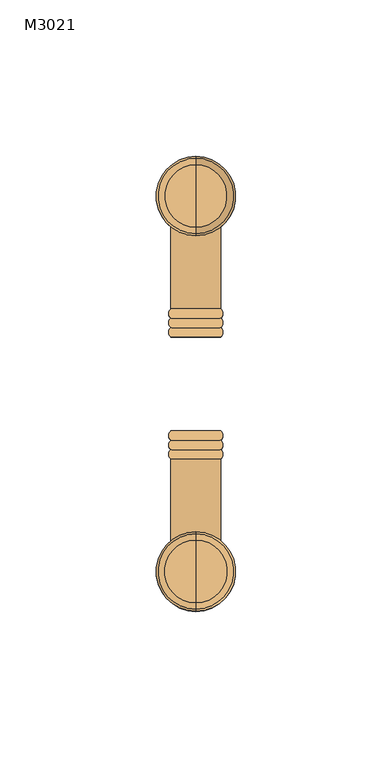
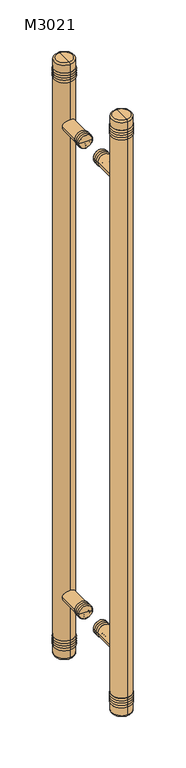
"""IFC4 building model written with IfcOpenShell, lengths in millimetres: door geometry, 双面嵌板连窗玻璃门 3 : M3021."""

from ifc_helpers import new_model, si_unit, point, frame, origin, place, context, project, spatial, circle_curve, ellipse_curve, trimmed, source, transform, mapped, element, save
from ifc_brep_helpers import plane_surface, cylinder_surface, revolved_surface, advanced_brep


def m3021_ca4d32ab(model_context):
    return source(origin(), model_context, "Body", "AdvancedBrep", [
        advanced_brep(
        [(-60.0, 15.0, 1300.0), (-68.0, 15.0, 1300.0), (-52.0, 15.0, 1300.0), (-52.0, 24.0, 1300.0), (-68.0, 24.0, 1300.0), (-60.0, 24.0, 1300.0), (-52.0, 21.0, 1300.0), (-68.0, 21.0, 1300.0), (-52.0, 18.0, 1300.0), (-68.0, 18.0, 1300.0)],
        [
            (0, 1),
            (1, 2, circle_curve(frame((-60.0, 15.0, 1300.0), z_axis=(0.0, -1.0, 0.0), x_axis=(-1.0, 0.0, 0.0)), 8.0)),
            (2, 0),
            (2, 1, circle_curve(frame((-60.0, 15.0, 1300.0), z_axis=(0.0, -1.0, 0.0), x_axis=(-1.0, 0.0, 0.0)), 8.0)),
            (3, 4, circle_curve(frame((-60.0, 24.0, 1300.0), z_axis=(0.0, 1.0, 0.0), x_axis=(-1.0, 0.0, 0.0)), 8.0)),
            (4, 5),
            (5, 3),
            (4, 3, circle_curve(frame((-60.0, 24.0, 1300.0), z_axis=(0.0, 1.0, 0.0), x_axis=(-1.0, 0.0, 0.0)), 8.0)),
            (6, 7, circle_curve(frame((-60.0, 21.0, 1300.0), z_axis=(0.0, 1.0, 0.0), x_axis=(-1.0, 0.0, 0.0)), 8.0)),
            (7, 4, circle_curve(frame((-66.6771243, 22.5, 1300.0), z_axis=(0.0, 0.0, -1.0), x_axis=(-1.0, 0.0, 0.0)), 2.0)),
            (3, 6, circle_curve(frame((-53.3228757, 22.5, 1300.0), z_axis=(0.0, 0.0, -1.0), x_axis=(1.0, 0.0, 0.0)), 2.0)),
            (7, 6, circle_curve(frame((-60.0, 21.0, 1300.0), z_axis=(0.0, 1.0, 0.0), x_axis=(-1.0, 0.0, 0.0)), 8.0)),
            (8, 9, circle_curve(frame((-60.0, 18.0, 1300.0), z_axis=(0.0, 1.0, 0.0), x_axis=(-1.0, 0.0, 0.0)), 8.0)),
            (9, 7, circle_curve(frame((-66.6771243, 19.5, 1300.0), z_axis=(0.0, 0.0, -1.0), x_axis=(-1.0, 0.0, 0.0)), 2.0)),
            (6, 8, circle_curve(frame((-53.3228757, 19.5, 1300.0), z_axis=(0.0, 0.0, -1.0), x_axis=(1.0, 0.0, 0.0)), 2.0)),
            (9, 8, circle_curve(frame((-60.0, 18.0, 1300.0), z_axis=(0.0, 1.0, 0.0), x_axis=(-1.0, 0.0, 0.0)), 8.0)),
            (1, 9, circle_curve(frame((-66.6771243, 16.5, 1300.0), z_axis=(0.0, 0.0, -1.0), x_axis=(-1.0, 0.0, 0.0)), 2.0)),
            (8, 2, circle_curve(frame((-53.3228757, 16.5, 1300.0), z_axis=(0.0, 0.0, -1.0), x_axis=(1.0, 0.0, 0.0)), 2.0)),
        ],
        [
            plane_surface(frame((-60.0, 15.0, 1300.0), z_axis=(0.0, -1.0, 0.0), x_axis=(-1.0, 0.0, 0.0))),
            plane_surface(frame((-60.0, 24.0, 1300.0), z_axis=(0.0, 1.0, 0.0), x_axis=(-1.0, 0.0, 0.0))),
            revolved_surface(trimmed(ellipse_curve(frame((-66.6771243, 22.5, 1300.0), z_axis=(0.0, 0.0, 1.0), x_axis=(-1.0, 0.0, 0.0)), 2.0, 2.0), [point((-68.0, 24.0, 1300.0))], [point((-68.0, 21.0, 1300.0))], True, "CARTESIAN"), (-60.0, -105.0, 1300.0), (0.0, -1.0, 0.0)),
            revolved_surface(trimmed(ellipse_curve(frame((-66.6771243, 19.5, 1300.0), z_axis=(0.0, 0.0, 1.0), x_axis=(-1.0, 0.0, 0.0)), 2.0, 2.0), [point((-68.0, 21.0, 1300.0))], [point((-68.0, 18.0, 1300.0))], True, "CARTESIAN"), (-60.0, -105.0, 1300.0), (0.0, -1.0, 0.0)),
            revolved_surface(trimmed(ellipse_curve(frame((-66.6771243, 16.5, 1300.0), z_axis=(0.0, 0.0, 1.0), x_axis=(-1.0, 0.0, 0.0)), 2.0, 2.0), [point((-68.0, 18.0, 1300.0))], [point((-68.0, 15.0, 1300.0))], True, "CARTESIAN"), (-60.0, -105.0, 1300.0), (0.0, -1.0, 0.0)),
        ],
        [
            (0, [[1, 2, 3]]),
            (0, [[-3, 4, -1]]),
            (1, [[5, 6, 7]]),
            (1, [[8, -7, -6]]),
            (2, [[9, 10, -5, 11]]),
            (2, [[12, -11, -8, -10]]),
            (3, [[13, 14, -9, 15]]),
            (3, [[16, -15, -12, -14]]),
            (4, [[-2, 17, -13, 18]]),
            (4, [[-4, -18, -16, -17]]),
        ],
    ),
        advanced_brep(
        [(-52.0, -18.0, 1300.0), (-68.0, -18.0, 1300.0), (-68.0, -15.0, 1300.0), (-52.0, -15.0, 1300.0), (-52.0, -21.0, 1300.0), (-68.0, -21.0, 1300.0), (-52.0, -24.0, 1300.0), (-68.0, -24.0, 1300.0), (-60.0, -24.0, 1300.0), (-60.0, -15.0, 1300.0)],
        [
            (0, 1, circle_curve(frame((-60.0, -18.0, 1300.0), z_axis=(0.0, 1.0, 0.0), x_axis=(-1.0, 0.0, 0.0)), 8.0)),
            (1, 2, circle_curve(frame((-66.6771243, -16.5, 1300.0), z_axis=(0.0, 0.0, -1.0), x_axis=(-1.0, 0.0, 0.0)), 2.0)),
            (2, 3, circle_curve(frame((-60.0, -15.0, 1300.0), z_axis=(0.0, -1.0, 0.0), x_axis=(-1.0, 0.0, 0.0)), 8.0)),
            (3, 0, circle_curve(frame((-53.3228757, -16.5, 1300.0), z_axis=(0.0, 0.0, -1.0), x_axis=(1.0, 0.0, 0.0)), 2.0)),
            (1, 0, circle_curve(frame((-60.0, -18.0, 1300.0), z_axis=(0.0, 1.0, 0.0), x_axis=(-1.0, 0.0, 0.0)), 8.0)),
            (3, 2, circle_curve(frame((-60.0, -15.0, 1300.0), z_axis=(0.0, -1.0, 0.0), x_axis=(-1.0, 0.0, 0.0)), 8.0)),
            (4, 5, circle_curve(frame((-60.0, -21.0, 1300.0), z_axis=(0.0, 1.0, 0.0), x_axis=(-1.0, 0.0, 0.0)), 8.0)),
            (5, 1, circle_curve(frame((-66.6771243, -19.5, 1300.0), z_axis=(0.0, 0.0, -1.0), x_axis=(-1.0, 0.0, 0.0)), 2.0)),
            (0, 4, circle_curve(frame((-53.3228757, -19.5, 1300.0), z_axis=(0.0, 0.0, -1.0), x_axis=(1.0, 0.0, 0.0)), 2.0)),
            (5, 4, circle_curve(frame((-60.0, -21.0, 1300.0), z_axis=(0.0, 1.0, 0.0), x_axis=(-1.0, 0.0, 0.0)), 8.0)),
            (6, 7, circle_curve(frame((-60.0, -24.0, 1300.0), z_axis=(0.0, 1.0, 0.0), x_axis=(-1.0, 0.0, 0.0)), 8.0)),
            (7, 5, circle_curve(frame((-66.6771243, -22.5, 1300.0), z_axis=(0.0, 0.0, -1.0), x_axis=(-1.0, 0.0, 0.0)), 2.0)),
            (4, 6, circle_curve(frame((-53.3228757, -22.5, 1300.0), z_axis=(0.0, 0.0, -1.0), x_axis=(1.0, 0.0, 0.0)), 2.0)),
            (7, 6, circle_curve(frame((-60.0, -24.0, 1300.0), z_axis=(0.0, 1.0, 0.0), x_axis=(-1.0, 0.0, 0.0)), 8.0)),
            (8, 7),
            (6, 8),
            (2, 9),
            (9, 3),
        ],
        [
            revolved_surface(trimmed(ellipse_curve(frame((-66.6771243, -16.5, 1300.0), z_axis=(0.0, 0.0, 1.0), x_axis=(-1.0, 0.0, 0.0)), 2.0, 2.0), [point((-68.0, -15.0, 1300.0))], [point((-68.0, -18.0, 1300.0))], True, "CARTESIAN"), (-60.0, -105.0, 1300.0), (0.0, -1.0, 0.0)),
            revolved_surface(trimmed(ellipse_curve(frame((-66.6771243, -19.5, 1300.0), z_axis=(0.0, 0.0, 1.0), x_axis=(-1.0, 0.0, 0.0)), 2.0, 2.0), [point((-68.0, -18.0, 1300.0))], [point((-68.0, -21.0, 1300.0))], True, "CARTESIAN"), (-60.0, -105.0, 1300.0), (0.0, -1.0, 0.0)),
            revolved_surface(trimmed(ellipse_curve(frame((-66.6771243, -22.5, 1300.0), z_axis=(0.0, 0.0, 1.0), x_axis=(-1.0, 0.0, 0.0)), 2.0, 2.0), [point((-68.0, -21.0, 1300.0))], [point((-68.0, -24.0, 1300.0))], True, "CARTESIAN"), (-60.0, -105.0, 1300.0), (0.0, -1.0, 0.0)),
            plane_surface(frame((-60.0, -24.0, 1300.0), z_axis=(0.0, -1.0, 0.0), x_axis=(-1.0, 0.0, 0.0))),
            plane_surface(frame((-60.0, -15.0, 1300.0), z_axis=(0.0, 1.0, 0.0), x_axis=(-1.0, 0.0, 0.0))),
        ],
        [
            (0, [[1, 2, 3, 4]]),
            (0, [[5, -4, 6, -2]]),
            (1, [[7, 8, -1, 9]]),
            (1, [[10, -9, -5, -8]]),
            (2, [[11, 12, -7, 13]]),
            (2, [[14, -13, -10, -12]]),
            (3, [[15, -11, 16]]),
            (3, [[-16, -14, -15]]),
            (4, [[-3, 17, 18]]),
            (4, [[-6, -18, -17]]),
        ],
    ),
        advanced_brep(
        [(-60.0, 15.0, 700.0), (-68.0, 15.0, 700.0), (-52.0, 15.0, 700.0), (-52.0, 24.0, 700.0), (-68.0, 24.0, 700.0), (-60.0, 24.0, 700.0), (-52.0, 21.0, 700.0), (-68.0, 21.0, 700.0), (-52.0, 18.0, 700.0), (-68.0, 18.0, 700.0)],
        [
            (0, 1),
            (1, 2, circle_curve(frame((-60.0, 15.0, 700.0), z_axis=(0.0, -1.0, 0.0), x_axis=(-1.0, 0.0, 0.0)), 8.0)),
            (2, 0),
            (2, 1, circle_curve(frame((-60.0, 15.0, 700.0), z_axis=(0.0, -1.0, 0.0), x_axis=(-1.0, 0.0, 0.0)), 8.0)),
            (3, 4, circle_curve(frame((-60.0, 24.0, 700.0), z_axis=(0.0, 1.0, 0.0), x_axis=(-1.0, 0.0, 0.0)), 8.0)),
            (4, 5),
            (5, 3),
            (4, 3, circle_curve(frame((-60.0, 24.0, 700.0), z_axis=(0.0, 1.0, 0.0), x_axis=(-1.0, 0.0, 0.0)), 8.0)),
            (6, 7, circle_curve(frame((-60.0, 21.0, 700.0), z_axis=(0.0, 1.0, 0.0), x_axis=(-1.0, 0.0, 0.0)), 8.0)),
            (7, 4, circle_curve(frame((-66.6771243, 22.5, 700.0), z_axis=(0.0, 0.0, -1.0), x_axis=(-1.0, 0.0, 0.0)), 2.0)),
            (3, 6, circle_curve(frame((-53.3228757, 22.5, 700.0), z_axis=(0.0, 0.0, -1.0), x_axis=(1.0, 0.0, 0.0)), 2.0)),
            (7, 6, circle_curve(frame((-60.0, 21.0, 700.0), z_axis=(0.0, 1.0, 0.0), x_axis=(-1.0, 0.0, 0.0)), 8.0)),
            (8, 9, circle_curve(frame((-60.0, 18.0, 700.0), z_axis=(0.0, 1.0, 0.0), x_axis=(-1.0, 0.0, 0.0)), 8.0)),
            (9, 7, circle_curve(frame((-66.6771243, 19.5, 700.0), z_axis=(0.0, 0.0, -1.0), x_axis=(-1.0, 0.0, 0.0)), 2.0)),
            (6, 8, circle_curve(frame((-53.3228757, 19.5, 700.0), z_axis=(0.0, 0.0, -1.0), x_axis=(1.0, 0.0, 0.0)), 2.0)),
            (9, 8, circle_curve(frame((-60.0, 18.0, 700.0), z_axis=(0.0, 1.0, 0.0), x_axis=(-1.0, 0.0, 0.0)), 8.0)),
            (1, 9, circle_curve(frame((-66.6771243, 16.5, 700.0), z_axis=(0.0, 0.0, -1.0), x_axis=(-1.0, 0.0, 0.0)), 2.0)),
            (8, 2, circle_curve(frame((-53.3228757, 16.5, 700.0), z_axis=(0.0, 0.0, -1.0), x_axis=(1.0, 0.0, 0.0)), 2.0)),
        ],
        [
            plane_surface(frame((-60.0, 15.0, 700.0), z_axis=(0.0, -1.0, 0.0), x_axis=(-1.0, 0.0, 0.0))),
            plane_surface(frame((-60.0, 24.0, 700.0), z_axis=(0.0, 1.0, 0.0), x_axis=(-1.0, 0.0, 0.0))),
            revolved_surface(trimmed(ellipse_curve(frame((-66.6771243, 22.5, 700.0), z_axis=(0.0, 0.0, 1.0), x_axis=(-1.0, 0.0, 0.0)), 2.0, 2.0), [point((-68.0, 24.0, 700.0))], [point((-68.0, 21.0, 700.0))], True, "CARTESIAN"), (-60.0, -105.0, 700.0), (0.0, -1.0, 0.0)),
            revolved_surface(trimmed(ellipse_curve(frame((-66.6771243, 19.5, 700.0), z_axis=(0.0, 0.0, 1.0), x_axis=(-1.0, 0.0, 0.0)), 2.0, 2.0), [point((-68.0, 21.0, 700.0))], [point((-68.0, 18.0, 700.0))], True, "CARTESIAN"), (-60.0, -105.0, 700.0), (0.0, -1.0, 0.0)),
            revolved_surface(trimmed(ellipse_curve(frame((-66.6771243, 16.5, 700.0), z_axis=(0.0, 0.0, 1.0), x_axis=(-1.0, 0.0, 0.0)), 2.0, 2.0), [point((-68.0, 18.0, 700.0))], [point((-68.0, 15.0, 700.0))], True, "CARTESIAN"), (-60.0, -105.0, 700.0), (0.0, -1.0, 0.0)),
        ],
        [
            (0, [[1, 2, 3]]),
            (0, [[-3, 4, -1]]),
            (1, [[5, 6, 7]]),
            (1, [[8, -7, -6]]),
            (2, [[9, 10, -5, 11]]),
            (2, [[12, -11, -8, -10]]),
            (3, [[13, 14, -9, 15]]),
            (3, [[16, -15, -12, -14]]),
            (4, [[-2, 17, -13, 18]]),
            (4, [[-4, -18, -16, -17]]),
        ],
    ),
        advanced_brep(
        [(-52.0, -18.0, 700.0), (-68.0, -18.0, 700.0), (-68.0, -15.0, 700.0), (-52.0, -15.0, 700.0), (-52.0, -21.0, 700.0), (-68.0, -21.0, 700.0), (-52.0, -24.0, 700.0), (-68.0, -24.0, 700.0), (-60.0, -24.0, 700.0), (-60.0, -15.0, 700.0)],
        [
            (0, 1, circle_curve(frame((-60.0, -18.0, 700.0), z_axis=(0.0, 1.0, 0.0), x_axis=(-1.0, 0.0, 0.0)), 8.0)),
            (1, 2, circle_curve(frame((-66.6771243, -16.5, 700.0), z_axis=(0.0, 0.0, -1.0), x_axis=(-1.0, 0.0, 0.0)), 2.0)),
            (2, 3, circle_curve(frame((-60.0, -15.0, 700.0), z_axis=(0.0, -1.0, 0.0), x_axis=(-1.0, 0.0, 0.0)), 8.0)),
            (3, 0, circle_curve(frame((-53.3228757, -16.5, 700.0), z_axis=(0.0, 0.0, -1.0), x_axis=(1.0, 0.0, 0.0)), 2.0)),
            (1, 0, circle_curve(frame((-60.0, -18.0, 700.0), z_axis=(0.0, 1.0, 0.0), x_axis=(-1.0, 0.0, 0.0)), 8.0)),
            (3, 2, circle_curve(frame((-60.0, -15.0, 700.0), z_axis=(0.0, -1.0, 0.0), x_axis=(-1.0, 0.0, 0.0)), 8.0)),
            (4, 5, circle_curve(frame((-60.0, -21.0, 700.0), z_axis=(0.0, 1.0, 0.0), x_axis=(-1.0, 0.0, 0.0)), 8.0)),
            (5, 1, circle_curve(frame((-66.6771243, -19.5, 700.0), z_axis=(0.0, 0.0, -1.0), x_axis=(-1.0, 0.0, 0.0)), 2.0)),
            (0, 4, circle_curve(frame((-53.3228757, -19.5, 700.0), z_axis=(0.0, 0.0, -1.0), x_axis=(1.0, 0.0, 0.0)), 2.0)),
            (5, 4, circle_curve(frame((-60.0, -21.0, 700.0), z_axis=(0.0, 1.0, 0.0), x_axis=(-1.0, 0.0, 0.0)), 8.0)),
            (6, 7, circle_curve(frame((-60.0, -24.0, 700.0), z_axis=(0.0, 1.0, 0.0), x_axis=(-1.0, 0.0, 0.0)), 8.0)),
            (7, 5, circle_curve(frame((-66.6771243, -22.5, 700.0), z_axis=(0.0, 0.0, -1.0), x_axis=(-1.0, 0.0, 0.0)), 2.0)),
            (4, 6, circle_curve(frame((-53.3228757, -22.5, 700.0), z_axis=(0.0, 0.0, -1.0), x_axis=(1.0, 0.0, 0.0)), 2.0)),
            (7, 6, circle_curve(frame((-60.0, -24.0, 700.0), z_axis=(0.0, 1.0, 0.0), x_axis=(-1.0, 0.0, 0.0)), 8.0)),
            (8, 7),
            (6, 8),
            (2, 9),
            (9, 3),
        ],
        [
            revolved_surface(trimmed(ellipse_curve(frame((-66.6771243, -16.5, 700.0), z_axis=(0.0, 0.0, 1.0), x_axis=(-1.0, 0.0, 0.0)), 2.0, 2.0), [point((-68.0, -15.0, 700.0))], [point((-68.0, -18.0, 700.0))], True, "CARTESIAN"), (-60.0, -105.0, 700.0), (0.0, -1.0, 0.0)),
            revolved_surface(trimmed(ellipse_curve(frame((-66.6771243, -19.5, 700.0), z_axis=(0.0, 0.0, 1.0), x_axis=(-1.0, 0.0, 0.0)), 2.0, 2.0), [point((-68.0, -18.0, 700.0))], [point((-68.0, -21.0, 700.0))], True, "CARTESIAN"), (-60.0, -105.0, 700.0), (0.0, -1.0, 0.0)),
            revolved_surface(trimmed(ellipse_curve(frame((-66.6771243, -22.5, 700.0), z_axis=(0.0, 0.0, 1.0), x_axis=(-1.0, 0.0, 0.0)), 2.0, 2.0), [point((-68.0, -21.0, 700.0))], [point((-68.0, -24.0, 700.0))], True, "CARTESIAN"), (-60.0, -105.0, 700.0), (0.0, -1.0, 0.0)),
            plane_surface(frame((-60.0, -24.0, 700.0), z_axis=(0.0, -1.0, 0.0), x_axis=(-1.0, 0.0, 0.0))),
            plane_surface(frame((-60.0, -15.0, 700.0), z_axis=(0.0, 1.0, 0.0), x_axis=(-1.0, 0.0, 0.0))),
        ],
        [
            (0, [[1, 2, 3, 4]]),
            (0, [[5, -4, 6, -2]]),
            (1, [[7, 8, -1, 9]]),
            (1, [[10, -9, -5, -8]]),
            (2, [[11, 12, -7, 13]]),
            (2, [[14, -13, -10, -12]]),
            (3, [[15, -11, 16]]),
            (3, [[-16, -14, -15]]),
            (4, [[-3, 17, 18]]),
            (4, [[-6, -18, -17]]),
        ],
    ),
        advanced_brep(
        [(-60.0, 48.0, 1356.0), (-60.0, 72.0, 1356.0), (-60.0, 60.0, 1356.0), (-60.0, 48.0, 1359.0), (-60.0, 72.0, 1359.0), (-60.0, 48.0, 1362.0), (-60.0, 72.0, 1362.0), (-60.0, 48.0, 1365.0), (-60.0, 72.0, 1365.0), (-60.0, 48.0, 1368.0), (-60.0, 72.0, 1368.0), (-60.0, 60.0, 1368.0)],
        [
            (0, 1, circle_curve(frame((-60.0, 60.0, 1356.0), z_axis=(0.0, 0.0, -1.0), x_axis=(0.0, 1.0, 0.0)), 12.0)),
            (1, 2),
            (2, 0),
            (1, 0, circle_curve(frame((-60.0, 60.0, 1356.0), z_axis=(0.0, 0.0, -1.0), x_axis=(0.0, 1.0, 0.0)), 12.0)),
            (3, 4, circle_curve(frame((-60.0, 60.0, 1359.0), z_axis=(0.0, 0.0, -1.0), x_axis=(0.0, 1.0, 0.0)), 12.0)),
            (4, 1, circle_curve(frame((-60.0, 70.6771243, 1357.5), z_axis=(-1.0, 0.0, 0.0), x_axis=(0.0, 1.0, 0.0)), 2.0)),
            (0, 3, circle_curve(frame((-60.0, 49.3228757, 1357.5), z_axis=(-1.0, 0.0, 0.0), x_axis=(0.0, -1.0, 0.0)), 2.0)),
            (4, 3, circle_curve(frame((-60.0, 60.0, 1359.0), z_axis=(0.0, 0.0, -1.0), x_axis=(0.0, 1.0, 0.0)), 12.0)),
            (5, 6, circle_curve(frame((-60.0, 60.0, 1362.0), z_axis=(0.0, 0.0, -1.0), x_axis=(0.0, 1.0, 0.0)), 12.0)),
            (6, 4, circle_curve(frame((-60.0, 70.6771243, 1360.5), z_axis=(-1.0, 0.0, 0.0), x_axis=(0.0, 1.0, 0.0)), 2.0)),
            (3, 5, circle_curve(frame((-60.0, 49.3228757, 1360.5), z_axis=(-1.0, 0.0, 0.0), x_axis=(0.0, -1.0, 0.0)), 2.0)),
            (6, 5, circle_curve(frame((-60.0, 60.0, 1362.0), z_axis=(0.0, 0.0, -1.0), x_axis=(0.0, 1.0, 0.0)), 12.0)),
            (7, 8, circle_curve(frame((-60.0, 60.0, 1365.0), z_axis=(0.0, 0.0, -1.0), x_axis=(0.0, 1.0, 0.0)), 12.0)),
            (8, 6, circle_curve(frame((-60.0, 70.6771243, 1363.5), z_axis=(-1.0, 0.0, 0.0), x_axis=(0.0, 1.0, 0.0)), 2.0)),
            (5, 7, circle_curve(frame((-60.0, 49.3228757, 1363.5), z_axis=(-1.0, 0.0, 0.0), x_axis=(0.0, -1.0, 0.0)), 2.0)),
            (8, 7, circle_curve(frame((-60.0, 60.0, 1365.0), z_axis=(0.0, 0.0, -1.0), x_axis=(0.0, 1.0, 0.0)), 12.0)),
            (9, 10, circle_curve(frame((-60.0, 60.0, 1368.0), z_axis=(0.0, 0.0, -1.0), x_axis=(0.0, 1.0, 0.0)), 12.0)),
            (10, 8, circle_curve(frame((-60.0, 70.6771243, 1366.5), z_axis=(-1.0, 0.0, 0.0), x_axis=(0.0, 1.0, 0.0)), 2.0)),
            (7, 9, circle_curve(frame((-60.0, 49.3228757, 1366.5), z_axis=(-1.0, 0.0, 0.0), x_axis=(0.0, -1.0, 0.0)), 2.0)),
            (10, 9, circle_curve(frame((-60.0, 60.0, 1368.0), z_axis=(0.0, 0.0, -1.0), x_axis=(0.0, 1.0, 0.0)), 12.0)),
            (11, 10),
            (9, 11),
        ],
        [
            plane_surface(frame((-60.0, 60.0, 1356.0), z_axis=(0.0, 0.0, -1.0), x_axis=(0.0, 1.0, 0.0))),
            revolved_surface(trimmed(ellipse_curve(frame((-60.0, 70.6771243, 1357.5), z_axis=(1.0, 0.0, 0.0), x_axis=(0.0, 1.0, 0.0)), 2.0, 2.0), [point((-60.0, 72.0, 1356.0))], [point((-60.0, 72.0, 1359.0))], True, "CARTESIAN"), (-60.0, 60.0, 690.0), (0.0, 0.0, 1.0)),
            revolved_surface(trimmed(ellipse_curve(frame((-60.0, 70.6771243, 1360.5), z_axis=(1.0, 0.0, 0.0), x_axis=(0.0, 1.0, 0.0)), 2.0, 2.0), [point((-60.0, 72.0, 1359.0))], [point((-60.0, 72.0, 1362.0))], True, "CARTESIAN"), (-60.0, 60.0, 690.0), (0.0, 0.0, 1.0)),
            revolved_surface(trimmed(ellipse_curve(frame((-60.0, 70.6771243, 1363.5), z_axis=(1.0, 0.0, 0.0), x_axis=(0.0, 1.0, 0.0)), 2.0, 2.0), [point((-60.0, 72.0, 1362.0))], [point((-60.0, 72.0, 1365.0))], True, "CARTESIAN"), (-60.0, 60.0, 690.0), (0.0, 0.0, 1.0)),
            revolved_surface(trimmed(ellipse_curve(frame((-60.0, 70.6771243, 1366.5), z_axis=(1.0, 0.0, 0.0), x_axis=(0.0, 1.0, 0.0)), 2.0, 2.0), [point((-60.0, 72.0, 1365.0))], [point((-60.0, 72.0, 1368.0))], True, "CARTESIAN"), (-60.0, 60.0, 690.0), (0.0, 0.0, 1.0)),
            plane_surface(frame((-60.0, 60.0, 1368.0), z_axis=(0.0, 0.0, 1.0), x_axis=(0.0, 1.0, 0.0))),
        ],
        [
            (0, [[1, 2, 3]]),
            (0, [[4, -3, -2]]),
            (1, [[5, 6, -1, 7]]),
            (1, [[8, -7, -4, -6]]),
            (2, [[9, 10, -5, 11]]),
            (2, [[12, -11, -8, -10]]),
            (3, [[13, 14, -9, 15]]),
            (3, [[16, -15, -12, -14]]),
            (4, [[17, 18, -13, 19]]),
            (4, [[20, -19, -16, -18]]),
            (5, [[21, -17, 22]]),
            (5, [[-22, -20, -21]]),
        ],
    ),
        advanced_brep(
        [(-60.0, 48.0, 632.0), (-60.0, 72.0, 632.0), (-60.0, 60.0, 632.0), (-60.0, 48.0, 635.0), (-60.0, 72.0, 635.0), (-60.0, 48.0, 638.0), (-60.0, 72.0, 638.0), (-60.0, 48.0, 641.0), (-60.0, 72.0, 641.0), (-60.0, 48.0, 644.0), (-60.0, 72.0, 644.0), (-60.0, 60.0, 644.0)],
        [
            (0, 1, circle_curve(frame((-60.0, 60.0, 632.0), z_axis=(0.0, 0.0, -1.0), x_axis=(0.0, 1.0, 0.0)), 12.0)),
            (1, 2),
            (2, 0),
            (1, 0, circle_curve(frame((-60.0, 60.0, 632.0), z_axis=(0.0, 0.0, -1.0), x_axis=(0.0, 1.0, 0.0)), 12.0)),
            (3, 4, circle_curve(frame((-60.0, 60.0, 635.0), z_axis=(0.0, 0.0, -1.0), x_axis=(0.0, 1.0, 0.0)), 12.0)),
            (4, 1, circle_curve(frame((-60.0, 70.6771243, 633.5), z_axis=(-1.0, 0.0, 0.0), x_axis=(0.0, 1.0, 0.0)), 2.0)),
            (0, 3, circle_curve(frame((-60.0, 49.3228757, 633.5), z_axis=(-1.0, 0.0, 0.0), x_axis=(0.0, -1.0, 0.0)), 2.0)),
            (4, 3, circle_curve(frame((-60.0, 60.0, 635.0), z_axis=(0.0, 0.0, -1.0), x_axis=(0.0, 1.0, 0.0)), 12.0)),
            (5, 6, circle_curve(frame((-60.0, 60.0, 638.0), z_axis=(0.0, 0.0, -1.0), x_axis=(0.0, 1.0, 0.0)), 12.0)),
            (6, 4, circle_curve(frame((-60.0, 70.6771243, 636.5), z_axis=(-1.0, 0.0, 0.0), x_axis=(0.0, 1.0, 0.0)), 2.0)),
            (3, 5, circle_curve(frame((-60.0, 49.3228757, 636.5), z_axis=(-1.0, 0.0, 0.0), x_axis=(0.0, -1.0, 0.0)), 2.0)),
            (6, 5, circle_curve(frame((-60.0, 60.0, 638.0), z_axis=(0.0, 0.0, -1.0), x_axis=(0.0, 1.0, 0.0)), 12.0)),
            (7, 8, circle_curve(frame((-60.0, 60.0, 641.0), z_axis=(0.0, 0.0, -1.0), x_axis=(0.0, 1.0, 0.0)), 12.0)),
            (8, 6, circle_curve(frame((-60.0, 70.6771243, 639.5), z_axis=(-1.0, 0.0, 0.0), x_axis=(0.0, 1.0, 0.0)), 2.0)),
            (5, 7, circle_curve(frame((-60.0, 49.3228757, 639.5), z_axis=(-1.0, 0.0, 0.0), x_axis=(0.0, -1.0, 0.0)), 2.0)),
            (8, 7, circle_curve(frame((-60.0, 60.0, 641.0), z_axis=(0.0, 0.0, -1.0), x_axis=(0.0, 1.0, 0.0)), 12.0)),
            (9, 10, circle_curve(frame((-60.0, 60.0, 644.0), z_axis=(0.0, 0.0, -1.0), x_axis=(0.0, 1.0, 0.0)), 12.0)),
            (10, 8, circle_curve(frame((-60.0, 70.6771243, 642.5), z_axis=(-1.0, 0.0, 0.0), x_axis=(0.0, 1.0, 0.0)), 2.0)),
            (7, 9, circle_curve(frame((-60.0, 49.3228757, 642.5), z_axis=(-1.0, 0.0, 0.0), x_axis=(0.0, -1.0, 0.0)), 2.0)),
            (10, 9, circle_curve(frame((-60.0, 60.0, 644.0), z_axis=(0.0, 0.0, -1.0), x_axis=(0.0, 1.0, 0.0)), 12.0)),
            (11, 10),
            (9, 11),
        ],
        [
            plane_surface(frame((-60.0, 60.0, 632.0), z_axis=(0.0, 0.0, -1.0), x_axis=(0.0, 1.0, 0.0))),
            revolved_surface(trimmed(ellipse_curve(frame((-60.0, 70.6771243, 633.5), z_axis=(1.0, 0.0, 0.0), x_axis=(0.0, 1.0, 0.0)), 2.0, 2.0), [point((-60.0, 72.0, 632.0))], [point((-60.0, 72.0, 635.0))], True, "CARTESIAN"), (-60.0, 60.0, 690.0), (0.0, 0.0, 1.0)),
            revolved_surface(trimmed(ellipse_curve(frame((-60.0, 70.6771243, 636.5), z_axis=(1.0, 0.0, 0.0), x_axis=(0.0, 1.0, 0.0)), 2.0, 2.0), [point((-60.0, 72.0, 635.0))], [point((-60.0, 72.0, 638.0))], True, "CARTESIAN"), (-60.0, 60.0, 690.0), (0.0, 0.0, 1.0)),
            revolved_surface(trimmed(ellipse_curve(frame((-60.0, 70.6771243, 639.5), z_axis=(1.0, 0.0, 0.0), x_axis=(0.0, 1.0, 0.0)), 2.0, 2.0), [point((-60.0, 72.0, 638.0))], [point((-60.0, 72.0, 641.0))], True, "CARTESIAN"), (-60.0, 60.0, 690.0), (0.0, 0.0, 1.0)),
            revolved_surface(trimmed(ellipse_curve(frame((-60.0, 70.6771243, 642.5), z_axis=(1.0, 0.0, 0.0), x_axis=(0.0, 1.0, 0.0)), 2.0, 2.0), [point((-60.0, 72.0, 641.0))], [point((-60.0, 72.0, 644.0))], True, "CARTESIAN"), (-60.0, 60.0, 690.0), (0.0, 0.0, 1.0)),
            plane_surface(frame((-60.0, 60.0, 644.0), z_axis=(0.0, 0.0, 1.0), x_axis=(0.0, 1.0, 0.0))),
        ],
        [
            (0, [[1, 2, 3]]),
            (0, [[4, -3, -2]]),
            (1, [[5, 6, -1, 7]]),
            (1, [[8, -7, -4, -6]]),
            (2, [[9, 10, -5, 11]]),
            (2, [[12, -11, -8, -10]]),
            (3, [[13, 14, -9, 15]]),
            (3, [[16, -15, -12, -14]]),
            (4, [[17, 18, -13, 19]]),
            (4, [[20, -19, -16, -18]]),
            (5, [[21, -17, 22]]),
            (5, [[-22, -20, -21]]),
        ],
    ),
        advanced_brep(
        [(-60.0, -48.0, 1364.8958565), (-60.0, -72.0, 1364.8958565), (-60.0, -72.0, 1367.8958565), (-60.0, -48.0, 1367.8958565), (-60.0, -48.0, 1361.8958565), (-60.0, -72.0, 1361.8958565), (-60.0, -48.0, 1358.8958565), (-60.0, -72.0, 1358.8958565), (-60.0, -48.0, 1355.8958565), (-60.0, -72.0, 1355.8958565), (-60.0, -60.0, 1355.8958565), (-60.0, -60.0, 1367.8958565)],
        [
            (0, 1, circle_curve(frame((-60.0, -60.0, 1364.8958565), z_axis=(0.0, 0.0, 1.0), x_axis=(0.0, -1.0, 0.0)), 12.0)),
            (1, 2, circle_curve(frame((-60.0, -70.6771243, 1366.3958565), z_axis=(-1.0, 0.0, 0.0), x_axis=(0.0, 1.0, 0.0)), 2.0)),
            (2, 3, circle_curve(frame((-60.0, -60.0, 1367.8958565), z_axis=(0.0, 0.0, -1.0), x_axis=(0.0, -1.0, 0.0)), 12.0)),
            (3, 0, circle_curve(frame((-60.0, -49.3228757, 1366.3958565), z_axis=(-1.0, 0.0, 0.0), x_axis=(0.0, -1.0, 0.0)), 2.0)),
            (1, 0, circle_curve(frame((-60.0, -60.0, 1364.8958565), z_axis=(0.0, 0.0, 1.0), x_axis=(0.0, -1.0, 0.0)), 12.0)),
            (3, 2, circle_curve(frame((-60.0, -60.0, 1367.8958565), z_axis=(0.0, 0.0, -1.0), x_axis=(0.0, -1.0, 0.0)), 12.0)),
            (4, 5, circle_curve(frame((-60.0, -60.0, 1361.8958565), z_axis=(0.0, 0.0, 1.0), x_axis=(0.0, -1.0, 0.0)), 12.0)),
            (5, 1, circle_curve(frame((-60.0, -70.6771243, 1363.3958565), z_axis=(-1.0, 0.0, 0.0), x_axis=(0.0, 1.0, 0.0)), 2.0)),
            (0, 4, circle_curve(frame((-60.0, -49.3228757, 1363.3958565), z_axis=(-1.0, 0.0, 0.0), x_axis=(0.0, -1.0, 0.0)), 2.0)),
            (5, 4, circle_curve(frame((-60.0, -60.0, 1361.8958565), z_axis=(0.0, 0.0, 1.0), x_axis=(0.0, -1.0, 0.0)), 12.0)),
            (6, 7, circle_curve(frame((-60.0, -60.0, 1358.8958565), z_axis=(0.0, 0.0, 1.0), x_axis=(0.0, -1.0, 0.0)), 12.0)),
            (7, 5, circle_curve(frame((-60.0, -70.6771243, 1360.3958565), z_axis=(-1.0, 0.0, 0.0), x_axis=(0.0, 1.0, 0.0)), 2.0)),
            (4, 6, circle_curve(frame((-60.0, -49.3228757, 1360.3958565), z_axis=(-1.0, 0.0, 0.0), x_axis=(0.0, -1.0, 0.0)), 2.0)),
            (7, 6, circle_curve(frame((-60.0, -60.0, 1358.8958565), z_axis=(0.0, 0.0, 1.0), x_axis=(0.0, -1.0, 0.0)), 12.0)),
            (8, 9, circle_curve(frame((-60.0, -60.0, 1355.8958565), z_axis=(0.0, 0.0, 1.0), x_axis=(0.0, -1.0, 0.0)), 12.0)),
            (9, 7, circle_curve(frame((-60.0, -70.6771243, 1357.3958565), z_axis=(-1.0, 0.0, 0.0), x_axis=(0.0, 1.0, 0.0)), 2.0)),
            (6, 8, circle_curve(frame((-60.0, -49.3228757, 1357.3958565), z_axis=(-1.0, 0.0, 0.0), x_axis=(0.0, -1.0, 0.0)), 2.0)),
            (9, 8, circle_curve(frame((-60.0, -60.0, 1355.8958565), z_axis=(0.0, 0.0, 1.0), x_axis=(0.0, -1.0, 0.0)), 12.0)),
            (10, 9),
            (8, 10),
            (2, 11),
            (11, 3),
        ],
        [
            revolved_surface(trimmed(ellipse_curve(frame((-60.0, -70.6771243, 1366.3958565), z_axis=(1.0, 0.0, 0.0), x_axis=(0.0, 1.0, 0.0)), 2.0, 2.0), [point((-60.0, -72.0, 1367.8958565))], [point((-60.0, -72.0, 1364.8958565))], True, "CARTESIAN"), (-60.0, -60.0, 690.0), (0.0, 0.0, -1.0)),
            revolved_surface(trimmed(ellipse_curve(frame((-60.0, -70.6771243, 1363.3958565), z_axis=(1.0, 0.0, 0.0), x_axis=(0.0, 1.0, 0.0)), 2.0, 2.0), [point((-60.0, -72.0, 1364.8958565))], [point((-60.0, -72.0, 1361.8958565))], True, "CARTESIAN"), (-60.0, -60.0, 690.0), (0.0, 0.0, -1.0)),
            revolved_surface(trimmed(ellipse_curve(frame((-60.0, -70.6771243, 1360.3958565), z_axis=(1.0, 0.0, 0.0), x_axis=(0.0, 1.0, 0.0)), 2.0, 2.0), [point((-60.0, -72.0, 1361.8958565))], [point((-60.0, -72.0, 1358.8958565))], True, "CARTESIAN"), (-60.0, -60.0, 690.0), (0.0, 0.0, -1.0)),
            revolved_surface(trimmed(ellipse_curve(frame((-60.0, -70.6771243, 1357.3958565), z_axis=(1.0, 0.0, 0.0), x_axis=(0.0, 1.0, 0.0)), 2.0, 2.0), [point((-60.0, -72.0, 1358.8958565))], [point((-60.0, -72.0, 1355.8958565))], True, "CARTESIAN"), (-60.0, -60.0, 690.0), (0.0, 0.0, -1.0)),
            plane_surface(frame((-60.0, -60.0, 1355.8958565), z_axis=(0.0, 0.0, -1.0), x_axis=(0.0, -1.0, 0.0))),
            plane_surface(frame((-60.0, -60.0, 1367.8958565), z_axis=(0.0, 0.0, 1.0), x_axis=(0.0, -1.0, 0.0))),
        ],
        [
            (0, [[1, 2, 3, 4]]),
            (0, [[5, -4, 6, -2]]),
            (1, [[7, 8, -1, 9]]),
            (1, [[10, -9, -5, -8]]),
            (2, [[11, 12, -7, 13]]),
            (2, [[14, -13, -10, -12]]),
            (3, [[15, 16, -11, 17]]),
            (3, [[18, -17, -14, -16]]),
            (4, [[19, -15, 20]]),
            (4, [[-20, -18, -19]]),
            (5, [[-3, 21, 22]]),
            (5, [[-6, -22, -21]]),
        ],
    ),
        advanced_brep(
        [(-60.0, -48.0, 644.0), (-60.0, -72.0, 644.0), (-60.0, -60.0, 644.0), (-60.0, -48.0, 641.0), (-60.0, -72.0, 641.0), (-60.0, -48.0, 638.0), (-60.0, -72.0, 638.0), (-60.0, -48.0, 635.0), (-60.0, -72.0, 635.0), (-60.0, -48.0, 632.0), (-60.0, -72.0, 632.0), (-60.0, -60.0, 632.0)],
        [
            (0, 1, circle_curve(frame((-60.0, -60.0, 644.0), z_axis=(0.0, 0.0, 1.0), x_axis=(0.0, -1.0, 0.0)), 12.0)),
            (1, 2),
            (2, 0),
            (1, 0, circle_curve(frame((-60.0, -60.0, 644.0), z_axis=(0.0, 0.0, 1.0), x_axis=(0.0, -1.0, 0.0)), 12.0)),
            (3, 4, circle_curve(frame((-60.0, -60.0, 641.0), z_axis=(0.0, 0.0, 1.0), x_axis=(0.0, -1.0, 0.0)), 12.0)),
            (4, 1, circle_curve(frame((-60.0, -70.6771243, 642.5), z_axis=(-1.0, 0.0, 0.0), x_axis=(0.0, 1.0, 0.0)), 2.0)),
            (0, 3, circle_curve(frame((-60.0, -49.3228757, 642.5), z_axis=(-1.0, 0.0, 0.0), x_axis=(0.0, -1.0, 0.0)), 2.0)),
            (4, 3, circle_curve(frame((-60.0, -60.0, 641.0), z_axis=(0.0, 0.0, 1.0), x_axis=(0.0, -1.0, 0.0)), 12.0)),
            (5, 6, circle_curve(frame((-60.0, -60.0, 638.0), z_axis=(0.0, 0.0, 1.0), x_axis=(0.0, -1.0, 0.0)), 12.0)),
            (6, 4, circle_curve(frame((-60.0, -70.6771243, 639.5), z_axis=(-1.0, 0.0, 0.0), x_axis=(0.0, 1.0, 0.0)), 2.0)),
            (3, 5, circle_curve(frame((-60.0, -49.3228757, 639.5), z_axis=(-1.0, 0.0, 0.0), x_axis=(0.0, -1.0, 0.0)), 2.0)),
            (6, 5, circle_curve(frame((-60.0, -60.0, 638.0), z_axis=(0.0, 0.0, 1.0), x_axis=(0.0, -1.0, 0.0)), 12.0)),
            (7, 8, circle_curve(frame((-60.0, -60.0, 635.0), z_axis=(0.0, 0.0, 1.0), x_axis=(0.0, -1.0, 0.0)), 12.0)),
            (8, 6, circle_curve(frame((-60.0, -70.6771243, 636.5), z_axis=(-1.0, 0.0, 0.0), x_axis=(0.0, 1.0, 0.0)), 2.0)),
            (5, 7, circle_curve(frame((-60.0, -49.3228757, 636.5), z_axis=(-1.0, 0.0, 0.0), x_axis=(0.0, -1.0, 0.0)), 2.0)),
            (8, 7, circle_curve(frame((-60.0, -60.0, 635.0), z_axis=(0.0, 0.0, 1.0), x_axis=(0.0, -1.0, 0.0)), 12.0)),
            (9, 10, circle_curve(frame((-60.0, -60.0, 632.0), z_axis=(0.0, 0.0, 1.0), x_axis=(0.0, -1.0, 0.0)), 12.0)),
            (10, 8, circle_curve(frame((-60.0, -70.6771243, 633.5), z_axis=(-1.0, 0.0, 0.0), x_axis=(0.0, 1.0, 0.0)), 2.0)),
            (7, 9, circle_curve(frame((-60.0, -49.3228757, 633.5), z_axis=(-1.0, 0.0, 0.0), x_axis=(0.0, -1.0, 0.0)), 2.0)),
            (10, 9, circle_curve(frame((-60.0, -60.0, 632.0), z_axis=(0.0, 0.0, 1.0), x_axis=(0.0, -1.0, 0.0)), 12.0)),
            (11, 10),
            (9, 11),
        ],
        [
            plane_surface(frame((-60.0, -60.0, 644.0), z_axis=(0.0, 0.0, 1.0), x_axis=(0.0, -1.0, 0.0))),
            revolved_surface(trimmed(ellipse_curve(frame((-60.0, -70.6771243, 642.5), z_axis=(1.0, 0.0, 0.0), x_axis=(0.0, 1.0, 0.0)), 2.0, 2.0), [point((-60.0, -72.0, 644.0))], [point((-60.0, -72.0, 641.0))], True, "CARTESIAN"), (-60.0, -60.0, 690.0), (0.0, 0.0, -1.0)),
            revolved_surface(trimmed(ellipse_curve(frame((-60.0, -70.6771243, 639.5), z_axis=(1.0, 0.0, 0.0), x_axis=(0.0, 1.0, 0.0)), 2.0, 2.0), [point((-60.0, -72.0, 641.0))], [point((-60.0, -72.0, 638.0))], True, "CARTESIAN"), (-60.0, -60.0, 690.0), (0.0, 0.0, -1.0)),
            revolved_surface(trimmed(ellipse_curve(frame((-60.0, -70.6771243, 636.5), z_axis=(1.0, 0.0, 0.0), x_axis=(0.0, 1.0, 0.0)), 2.0, 2.0), [point((-60.0, -72.0, 638.0))], [point((-60.0, -72.0, 635.0))], True, "CARTESIAN"), (-60.0, -60.0, 690.0), (0.0, 0.0, -1.0)),
            revolved_surface(trimmed(ellipse_curve(frame((-60.0, -70.6771243, 633.5), z_axis=(1.0, 0.0, 0.0), x_axis=(0.0, 1.0, 0.0)), 2.0, 2.0), [point((-60.0, -72.0, 635.0))], [point((-60.0, -72.0, 632.0))], True, "CARTESIAN"), (-60.0, -60.0, 690.0), (0.0, 0.0, -1.0)),
            plane_surface(frame((-60.0, -60.0, 632.0), z_axis=(0.0, 0.0, -1.0), x_axis=(0.0, -1.0, 0.0))),
        ],
        [
            (0, [[1, 2, 3]]),
            (0, [[4, -3, -2]]),
            (1, [[5, 6, -1, 7]]),
            (1, [[8, -7, -4, -6]]),
            (2, [[9, 10, -5, 11]]),
            (2, [[12, -11, -8, -10]]),
            (3, [[13, 14, -9, 15]]),
            (3, [[16, -15, -12, -14]]),
            (4, [[17, 18, -13, 19]]),
            (4, [[20, -19, -16, -18]]),
            (5, [[21, -17, 22]]),
            (5, [[-22, -20, -21]]),
        ],
    ),
        advanced_brep(
        [(-60.0, 48.0, 622.0), (-60.0, 72.0, 622.0), (-60.0, 70.0, 620.0), (-60.0, 50.0, 620.0), (-60.0, 48.0, 1378.0), (-60.0, 72.0, 1378.0), (-60.0, 50.0, 1380.0), (-60.0, 70.0, 1380.0), (-60.0, 60.0, 1380.0), (-60.0, 60.0, 620.0)],
        [
            (0, 1, circle_curve(frame((-60.0, 60.0, 622.0), z_axis=(0.0, 0.0, -1.0), x_axis=(0.0, 1.0, 0.0)), 12.0)),
            (1, 2, circle_curve(frame((-60.0, 70.0, 622.0), z_axis=(-1.0, 0.0, 0.0), x_axis=(0.0, 1.0, 0.0)), 2.0)),
            (2, 3, circle_curve(frame((-60.0, 60.0, 620.0), z_axis=(0.0, 0.0, 1.0), x_axis=(0.0, 1.0, 0.0)), 10.0)),
            (3, 0, circle_curve(frame((-60.0, 50.0, 622.0), z_axis=(-1.0, 0.0, 0.0), x_axis=(0.0, -1.0, 0.0)), 2.0)),
            (1, 0, circle_curve(frame((-60.0, 60.0, 622.0), z_axis=(0.0, 0.0, -1.0), x_axis=(0.0, 1.0, 0.0)), 12.0)),
            (3, 2, circle_curve(frame((-60.0, 60.0, 620.0), z_axis=(0.0, 0.0, 1.0), x_axis=(0.0, 1.0, 0.0)), 10.0)),
            (4, 5, circle_curve(frame((-60.0, 60.0, 1378.0), z_axis=(0.0, 0.0, -1.0), x_axis=(0.0, 1.0, 0.0)), 12.0)),
            (5, 1),
            (0, 4),
            (5, 4, circle_curve(frame((-60.0, 60.0, 1378.0), z_axis=(0.0, 0.0, -1.0), x_axis=(0.0, 1.0, 0.0)), 12.0)),
            (6, 7, circle_curve(frame((-60.0, 60.0, 1380.0), z_axis=(0.0, 0.0, -1.0), x_axis=(0.0, 1.0, 0.0)), 10.0)),
            (7, 5, circle_curve(frame((-60.0, 70.0, 1378.0), z_axis=(-1.0, 0.0, 0.0), x_axis=(0.0, 1.0, 0.0)), 2.0)),
            (4, 6, circle_curve(frame((-60.0, 50.0, 1378.0), z_axis=(-1.0, 0.0, 0.0), x_axis=(0.0, -1.0, 0.0)), 2.0)),
            (7, 6, circle_curve(frame((-60.0, 60.0, 1380.0), z_axis=(0.0, 0.0, -1.0), x_axis=(0.0, 1.0, 0.0)), 10.0)),
            (8, 7),
            (6, 8),
            (2, 9),
            (9, 3),
        ],
        [
            revolved_surface(trimmed(ellipse_curve(frame((-60.0, 70.0, 622.0), z_axis=(1.0, 0.0, 0.0), x_axis=(0.0, 1.0, 0.0)), 2.0, 2.0), [point((-60.0, 70.0, 620.0))], [point((-60.0, 72.0, 622.0))], True, "CARTESIAN"), (-60.0, 60.0, 690.0), (0.0, 0.0, 1.0)),
            cylinder_surface(frame((-60.0, 60.0, 690.0), z_axis=(0.0, 0.0, 1.0), x_axis=(0.0, 1.0, 0.0)), 12.0),
            revolved_surface(trimmed(ellipse_curve(frame((-60.0, 70.0, 1378.0), z_axis=(1.0, 0.0, 0.0), x_axis=(0.0, 1.0, 0.0)), 2.0, 2.0), [point((-60.0, 72.0, 1378.0))], [point((-60.0, 70.0, 1380.0))], True, "CARTESIAN"), (-60.0, 60.0, 690.0), (0.0, 0.0, 1.0)),
            plane_surface(frame((-60.0, 60.0, 1380.0), z_axis=(0.0, 0.0, 1.0), x_axis=(0.0, 1.0, 0.0))),
            plane_surface(frame((-60.0, 60.0, 620.0), z_axis=(0.0, 0.0, -1.0), x_axis=(0.0, 1.0, 0.0))),
        ],
        [
            (0, [[1, 2, 3, 4]]),
            (0, [[5, -4, 6, -2]]),
            (1, [[7, 8, -1, 9]]),
            (1, [[10, -9, -5, -8]]),
            (2, [[11, 12, -7, 13]]),
            (2, [[14, -13, -10, -12]]),
            (3, [[15, -11, 16]]),
            (3, [[-16, -14, -15]]),
            (4, [[-3, 17, 18]]),
            (4, [[-6, -18, -17]]),
        ],
    ),
        advanced_brep(
        [(-60.0, -60.0, 620.0), (-60.0, -70.0, 620.0), (-60.0, -50.0, 620.0), (-60.0, -50.0, 1380.0), (-60.0, -70.0, 1380.0), (-60.0, -60.0, 1380.0), (-60.0, -48.0, 1378.0), (-60.0, -72.0, 1378.0), (-60.0, -48.0, 622.0), (-60.0, -72.0, 622.0)],
        [
            (0, 1),
            (1, 2, circle_curve(frame((-60.0, -60.0, 620.0), z_axis=(0.0, 0.0, -1.0), x_axis=(0.0, -1.0, 0.0)), 10.0)),
            (2, 0),
            (2, 1, circle_curve(frame((-60.0, -60.0, 620.0), z_axis=(0.0, 0.0, -1.0), x_axis=(0.0, -1.0, 0.0)), 10.0)),
            (3, 4, circle_curve(frame((-60.0, -60.0, 1380.0), z_axis=(0.0, 0.0, 1.0), x_axis=(0.0, -1.0, 0.0)), 10.0)),
            (4, 5),
            (5, 3),
            (4, 3, circle_curve(frame((-60.0, -60.0, 1380.0), z_axis=(0.0, 0.0, 1.0), x_axis=(0.0, -1.0, 0.0)), 10.0)),
            (6, 7, circle_curve(frame((-60.0, -60.0, 1378.0), z_axis=(0.0, 0.0, 1.0), x_axis=(0.0, -1.0, 0.0)), 12.0)),
            (7, 4, circle_curve(frame((-60.0, -70.0, 1378.0), z_axis=(-1.0, 0.0, 0.0), x_axis=(0.0, 1.0, 0.0)), 2.0)),
            (3, 6, circle_curve(frame((-60.0, -50.0, 1378.0), z_axis=(-1.0, 0.0, 0.0), x_axis=(0.0, -1.0, 0.0)), 2.0)),
            (7, 6, circle_curve(frame((-60.0, -60.0, 1378.0), z_axis=(0.0, 0.0, 1.0), x_axis=(0.0, -1.0, 0.0)), 12.0)),
            (8, 9, circle_curve(frame((-60.0, -60.0, 622.0), z_axis=(0.0, 0.0, 1.0), x_axis=(0.0, -1.0, 0.0)), 12.0)),
            (9, 7),
            (6, 8),
            (9, 8, circle_curve(frame((-60.0, -60.0, 622.0), z_axis=(0.0, 0.0, 1.0), x_axis=(0.0, -1.0, 0.0)), 12.0)),
            (1, 9, circle_curve(frame((-60.0, -70.0, 622.0), z_axis=(-1.0, 0.0, 0.0), x_axis=(0.0, 1.0, 0.0)), 2.0)),
            (8, 2, circle_curve(frame((-60.0, -50.0, 622.0), z_axis=(-1.0, 0.0, 0.0), x_axis=(0.0, -1.0, 0.0)), 2.0)),
        ],
        [
            plane_surface(frame((-60.0, -60.0, 620.0), z_axis=(0.0, 0.0, -1.0), x_axis=(0.0, -1.0, 0.0))),
            plane_surface(frame((-60.0, -60.0, 1380.0), z_axis=(0.0, 0.0, 1.0), x_axis=(0.0, -1.0, 0.0))),
            revolved_surface(trimmed(ellipse_curve(frame((-60.0, -70.0, 1378.0), z_axis=(1.0, 0.0, 0.0), x_axis=(0.0, 1.0, 0.0)), 2.0, 2.0), [point((-60.0, -70.0, 1380.0))], [point((-60.0, -72.0, 1378.0))], True, "CARTESIAN"), (-60.0, -60.0, 690.0), (0.0, 0.0, -1.0)),
            cylinder_surface(frame((-60.0, -60.0, 690.0), z_axis=(0.0, 0.0, -1.0), x_axis=(0.0, -1.0, 0.0)), 12.0),
            revolved_surface(trimmed(ellipse_curve(frame((-60.0, -70.0, 622.0), z_axis=(1.0, 0.0, 0.0), x_axis=(0.0, 1.0, 0.0)), 2.0, 2.0), [point((-60.0, -72.0, 622.0))], [point((-60.0, -70.0, 620.0))], True, "CARTESIAN"), (-60.0, -60.0, 690.0), (0.0, 0.0, -1.0)),
        ],
        [
            (0, [[1, 2, 3]]),
            (0, [[-3, 4, -1]]),
            (1, [[5, 6, 7]]),
            (1, [[8, -7, -6]]),
            (2, [[9, 10, -5, 11]]),
            (2, [[12, -11, -8, -10]]),
            (3, [[13, 14, -9, 15]]),
            (3, [[16, -15, -12, -14]]),
            (4, [[-2, 17, -13, 18]]),
            (4, [[-4, -18, -16, -17]]),
        ],
    ),
        advanced_brep(
        [(-52.0, -60.0, 1300.0), (-68.0, -60.0, 1300.0), (-68.0, -15.0, 1300.0), (-52.0, -15.0, 1300.0), (-60.0, -60.0, 1300.0), (-60.0, -15.0, 1300.0)],
        [
            (0, 1, circle_curve(frame((-60.0, -60.0, 1300.0), z_axis=(0.0, 1.0, 0.0), x_axis=(-1.0, 0.0, 0.0)), 8.0)),
            (1, 2),
            (2, 3, circle_curve(frame((-60.0, -15.0, 1300.0), z_axis=(0.0, -1.0, 0.0), x_axis=(-1.0, 0.0, 0.0)), 8.0)),
            (3, 0),
            (1, 0, circle_curve(frame((-60.0, -60.0, 1300.0), z_axis=(0.0, 1.0, 0.0), x_axis=(-1.0, 0.0, 0.0)), 8.0)),
            (3, 2, circle_curve(frame((-60.0, -15.0, 1300.0), z_axis=(0.0, -1.0, 0.0), x_axis=(-1.0, 0.0, 0.0)), 8.0)),
            (4, 1),
            (0, 4),
            (2, 5),
            (5, 3),
        ],
        [
            cylinder_surface(frame((-60.0, -155.0, 1300.0), z_axis=(0.0, -1.0, 0.0), x_axis=(-1.0, 0.0, 0.0)), 8.0),
            plane_surface(frame((-60.0, -60.0, 1300.0), z_axis=(0.0, -1.0, 0.0), x_axis=(-1.0, 0.0, 0.0))),
            plane_surface(frame((-60.0, -15.0, 1300.0), z_axis=(0.0, 1.0, 0.0), x_axis=(-1.0, 0.0, 0.0))),
        ],
        [
            (0, [[1, 2, 3, 4]]),
            (0, [[5, -4, 6, -2]]),
            (1, [[7, -1, 8]]),
            (1, [[-8, -5, -7]]),
            (2, [[-3, 9, 10]]),
            (2, [[-6, -10, -9]]),
        ],
    ),
        advanced_brep(
        [(-60.0, 15.0, 1300.0), (-68.0, 15.0, 1300.0), (-52.0, 15.0, 1300.0), (-52.0, 60.0, 1300.0), (-68.0, 60.0, 1300.0), (-60.0, 60.0, 1300.0)],
        [
            (0, 1),
            (1, 2, circle_curve(frame((-60.0, 15.0, 1300.0), z_axis=(0.0, -1.0, 0.0), x_axis=(-1.0, 0.0, 0.0)), 8.0)),
            (2, 0),
            (2, 1, circle_curve(frame((-60.0, 15.0, 1300.0), z_axis=(0.0, -1.0, 0.0), x_axis=(-1.0, 0.0, 0.0)), 8.0)),
            (3, 4, circle_curve(frame((-60.0, 60.0, 1300.0), z_axis=(0.0, 1.0, 0.0), x_axis=(-1.0, 0.0, 0.0)), 8.0)),
            (4, 5),
            (5, 3),
            (4, 3, circle_curve(frame((-60.0, 60.0, 1300.0), z_axis=(0.0, 1.0, 0.0), x_axis=(-1.0, 0.0, 0.0)), 8.0)),
            (1, 4),
            (3, 2),
        ],
        [
            plane_surface(frame((-60.0, 15.0, 1300.0), z_axis=(0.0, -1.0, 0.0), x_axis=(-1.0, 0.0, 0.0))),
            plane_surface(frame((-60.0, 60.0, 1300.0), z_axis=(0.0, 1.0, 0.0), x_axis=(-1.0, 0.0, 0.0))),
            cylinder_surface(frame((-60.0, -155.0, 1300.0), z_axis=(0.0, -1.0, 0.0), x_axis=(-1.0, 0.0, 0.0)), 8.0),
        ],
        [
            (0, [[1, 2, 3]]),
            (0, [[-3, 4, -1]]),
            (1, [[5, 6, 7]]),
            (1, [[8, -7, -6]]),
            (2, [[-2, 9, -5, 10]]),
            (2, [[-4, -10, -8, -9]]),
        ],
    ),
        advanced_brep(
        [(-52.0, -60.0, 700.0), (-68.0, -60.0, 700.0), (-68.0, -15.0, 700.0), (-52.0, -15.0, 700.0), (-60.0, -60.0, 700.0), (-60.0, -15.0, 700.0)],
        [
            (0, 1, circle_curve(frame((-60.0, -60.0, 700.0), z_axis=(0.0, 1.0, 0.0), x_axis=(-1.0, 0.0, 0.0)), 8.0)),
            (1, 2),
            (2, 3, circle_curve(frame((-60.0, -15.0, 700.0), z_axis=(0.0, -1.0, 0.0), x_axis=(-1.0, 0.0, 0.0)), 8.0)),
            (3, 0),
            (1, 0, circle_curve(frame((-60.0, -60.0, 700.0), z_axis=(0.0, 1.0, 0.0), x_axis=(-1.0, 0.0, 0.0)), 8.0)),
            (3, 2, circle_curve(frame((-60.0, -15.0, 700.0), z_axis=(0.0, -1.0, 0.0), x_axis=(-1.0, 0.0, 0.0)), 8.0)),
            (4, 1),
            (0, 4),
            (2, 5),
            (5, 3),
        ],
        [
            cylinder_surface(frame((-60.0, -155.0, 700.0), z_axis=(0.0, -1.0, 0.0), x_axis=(-1.0, 0.0, 0.0)), 8.0),
            plane_surface(frame((-60.0, -60.0, 700.0), z_axis=(0.0, -1.0, 0.0), x_axis=(-1.0, 0.0, 0.0))),
            plane_surface(frame((-60.0, -15.0, 700.0), z_axis=(0.0, 1.0, 0.0), x_axis=(-1.0, 0.0, 0.0))),
        ],
        [
            (0, [[1, 2, 3, 4]]),
            (0, [[5, -4, 6, -2]]),
            (1, [[7, -1, 8]]),
            (1, [[-8, -5, -7]]),
            (2, [[-3, 9, 10]]),
            (2, [[-6, -10, -9]]),
        ],
    ),
        advanced_brep(
        [(-60.0, 15.0, 700.0), (-68.0, 15.0, 700.0), (-52.0, 15.0, 700.0), (-52.0, 60.0, 700.0), (-68.0, 60.0, 700.0), (-60.0, 60.0, 700.0)],
        [
            (0, 1),
            (1, 2, circle_curve(frame((-60.0, 15.0, 700.0), z_axis=(0.0, -1.0, 0.0), x_axis=(-1.0, 0.0, 0.0)), 8.0)),
            (2, 0),
            (2, 1, circle_curve(frame((-60.0, 15.0, 700.0), z_axis=(0.0, -1.0, 0.0), x_axis=(-1.0, 0.0, 0.0)), 8.0)),
            (3, 4, circle_curve(frame((-60.0, 60.0, 700.0), z_axis=(0.0, 1.0, 0.0), x_axis=(-1.0, 0.0, 0.0)), 8.0)),
            (4, 5),
            (5, 3),
            (4, 3, circle_curve(frame((-60.0, 60.0, 700.0), z_axis=(0.0, 1.0, 0.0), x_axis=(-1.0, 0.0, 0.0)), 8.0)),
            (1, 4),
            (3, 2),
        ],
        [
            plane_surface(frame((-60.0, 15.0, 700.0), z_axis=(0.0, -1.0, 0.0), x_axis=(-1.0, 0.0, 0.0))),
            plane_surface(frame((-60.0, 60.0, 700.0), z_axis=(0.0, 1.0, 0.0), x_axis=(-1.0, 0.0, 0.0))),
            cylinder_surface(frame((-60.0, -155.0, 700.0), z_axis=(0.0, -1.0, 0.0), x_axis=(-1.0, 0.0, 0.0)), 8.0),
        ],
        [
            (0, [[1, 2, 3]]),
            (0, [[-3, 4, -1]]),
            (1, [[5, 6, 7]]),
            (1, [[8, -7, -6]]),
            (2, [[-2, 9, -5, 10]]),
            (2, [[-4, -10, -8, -9]]),
        ],
    ),
    ])


if __name__ == "__main__":
    model = new_model("IFC4")
    model_context = context("Model", 3, world=origin())
    ifc_project = project(units=[si_unit("LENGTHUNIT", "METRE", prefix="MILLI")], contexts=[model_context])
    site = spatial("IfcSite", under=ifc_project)
    building = spatial("IfcBuilding", under=site)
    placement = place(None, origin())
    m3021_shape = m3021_ca4d32ab(model_context)
    element("IfcDoor", 1, ObjectType="双面嵌板连窗玻璃门 3 : M3021", at=placement, inside=building, context=model_context, shape_type="MappedRepresentation", body=[
        mapped(m3021_shape, transform((0.0, 0.0, 0.0), x_axis=(1.0, 0.0, 0.0), y_axis=(0.0, 1.0, 0.0), z_axis=(0.0, 0.0, 1.0))),
    ])
    save(model, "model.ifc")
